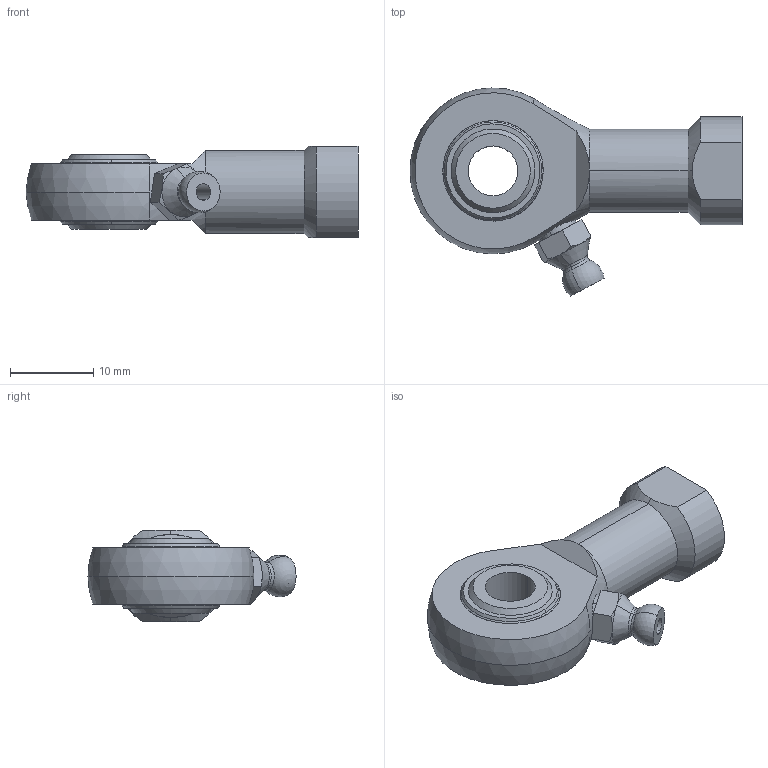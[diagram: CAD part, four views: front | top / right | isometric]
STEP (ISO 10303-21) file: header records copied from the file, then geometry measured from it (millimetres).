
FILE_DESCRIPTION (( 'STEP AP203' ), '1' );
FILE_NAME ('65760.W0106.step', '2014-02-11T16:41:10', ( 'User' ), ( '' ), 'SwSTEP 2.0', 'SolidWorks 2009', '' );
FILE_SCHEMA (( 'CONFIG_CONTROL_DESIGN' ));
Length unit declared in the file: millimetre
Products named in the file (5): 65760.W0106; Part1_65760.W0106; Part2_65760.W0106; Part3_M5; Part4_65760.W0106
Assembly tree (5 placements, depth 2):
  65760.W0106
    Part1_65760.W0106
    Part3_M5
    Part2_65760.W0106
    Part4_65760.W0106  x2
Bounding box: 40 x 25.08 x 11 mm (x, y, z)
Volume: 3543.1 mm3; surface area: 3714.3 mm2
Topology: 46 solids, 46 shells, 183 faces, 528 edges, 355 vertices
Faces by surface type: sphere 98, plane 27, torus 22, cylinder 20, cone 16
Entity records: 4871 total; most frequent: CARTESIAN_POINT 938, DIRECTION 814, ORIENTED_EDGE 570, AXIS2_PLACEMENT_3D 384, EDGE_CURVE 285, VERTEX_POINT 212, CIRCLE 205, EDGE_LOOP 189
